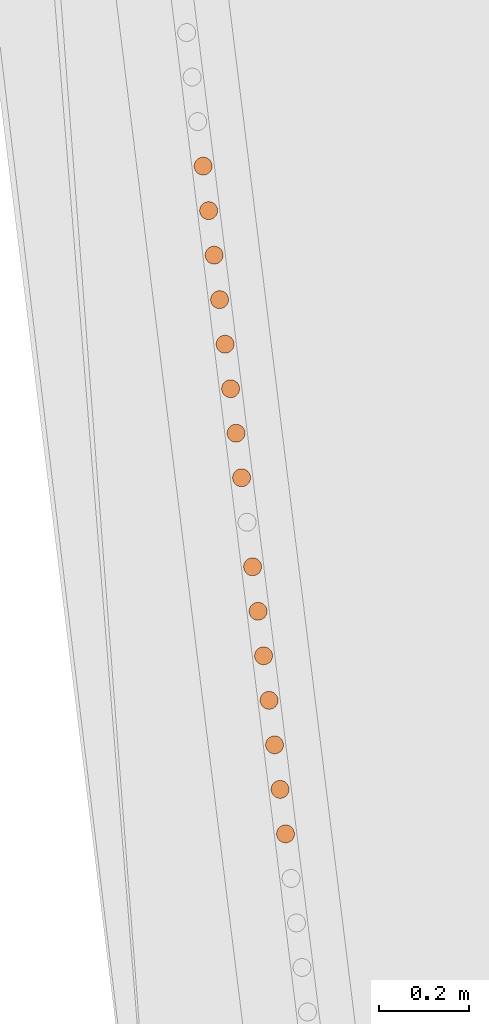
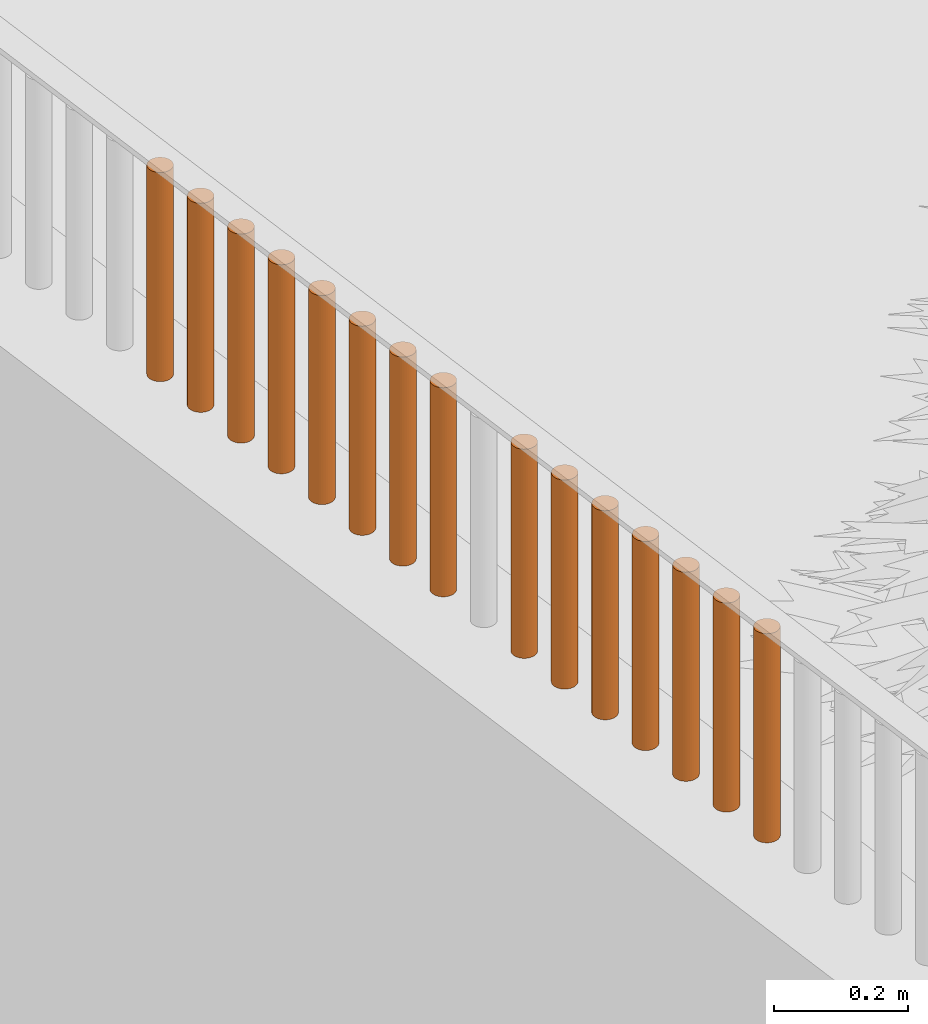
# One storey, part 57 of 1809: 15 proxies, 1 element without a shape of its own.
"""IFC2X3 building model written with IfcOpenShell, lengths in millimetres."""

from ifc_helpers import new_model, entity, si_unit, converted_unit, derived_unit, money_unit, direction, frame, origin_with_axes, place, context, subcontext, project, spatial, faceted_brep, source, transform, mapped, material, type_object, element, aggregate, save


model = new_model("IFC2X3")

# Units and contexts
model_context = context("Model", 3, precision=0.01, world=origin_with_axes(), true_north=direction((0.0, 1.0)))
body_context = subcontext(model_context, "Body", "Model", "MODEL_VIEW")
ifc_project = project(units=[si_unit("LENGTHUNIT", "METRE", prefix="MILLI"), si_unit("AREAUNIT", "SQUARE_METRE"), si_unit("VOLUMEUNIT", "CUBIC_METRE"), converted_unit("PLANEANGLEUNIT", "DEGREE", entity("IfcPlaneAngleMeasure", 0.0174532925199), si_unit("PLANEANGLEUNIT", "RADIAN"), dimensions=[0, 0, 0, 0, 0, 0, 0]), si_unit("SOLIDANGLEUNIT", "STERADIAN"), money_unit("EUR"), converted_unit("TIMEUNIT", "Year", entity("IfcTimeMeasure", 31556926.0), si_unit("TIMEUNIT", "SECOND"), dimensions=[0, 0, 1, 0, 0, 0, 0]), si_unit("MASSUNIT", "GRAM", prefix="KILO"), si_unit("THERMODYNAMICTEMPERATUREUNIT", "DEGREE_CELSIUS"), si_unit("LUMINOUSINTENSITYUNIT", "LUMEN"), si_unit("ENERGYUNIT", "JOULE", prefix="MEGA"), derived_unit("THERMALCONDUCTANCEUNIT", [(si_unit("POWERUNIT", "WATT"), 1), (si_unit("LENGTHUNIT", "METRE"), -1), (si_unit("THERMODYNAMICTEMPERATUREUNIT", "KELVIN"), -1)]), derived_unit("SPECIFICHEATCAPACITYUNIT", [(si_unit("ENERGYUNIT", "JOULE"), 1), (si_unit("MASSUNIT", "GRAM", prefix="KILO"), -1), (si_unit("THERMODYNAMICTEMPERATUREUNIT", "KELVIN"), -1)]), derived_unit("MASSDENSITYUNIT", [(si_unit("MASSUNIT", "GRAM", prefix="KILO"), 1), (si_unit("VOLUMEUNIT", "CUBIC_METRE"), -1)])], contexts=[model_context])

# Site, building, storey
site_placement = place(None, origin_with_axes())
site = spatial("IfcSite", under=ifc_project, at=site_placement, Name="Politse- ja Piirivalveameti ning Päästeameti ühishoone", CompositionType="ELEMENT")
building_placement = place(site_placement, origin_with_axes())
building = spatial("IfcBuilding", under=site, at=building_placement, Name="Politse- ja Piirivalveameti ning Päästeameti ühishoone", CompositionType="ELEMENT")
storey_placement = place(building_placement, origin_with_axes())
storey = spatial("IfcBuildingStorey", under=building, at=storey_placement, Name="Esimene korrus", CompositionType="ELEMENT", Elevation=0.0)

# Proxies
building_element_proxy_type_1 = type_object("IfcBuildingElementProxyType", Name="Railing Type", PredefinedType="NOTDEFINED")
proxy_1_placement = place(storey_placement, frame((-18956.5522504, -53688.4757966, 2100.0), z_axis=(0.0, 0.0, 1.0), x_axis=(1.0, 0.0, 0.0)))
proxy_1 = element("IfcBuildingElementProxy", 1, at=proxy_1_placement, inside=storey, type_object=building_element_proxy_type_1, Name="PIIRDEAED")
ifc_material = material(Name="ET-06_Teras - Konstruktsioon")
building_element_proxy_type_2 = type_object("IfcBuildingElementProxyType", Name="IfcBuildingElementProxy", PredefinedType="NOTDEFINED")
shared_shape_1 = source(origin_with_axes(), body_context, "Body", "Brep", [
    faceted_brep([(0.0, -20.0, 0.0), (3.47296355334, -19.6961550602, 0.0), (3.47296355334, -19.6961550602, 380.000012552), (0.0, -20.0, 380.000012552), (-3.47296355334, -19.6961550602, 0.0), (-6.84040286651, -18.7938524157, 0.0), (-10.0, -17.3205080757, 0.0), (-12.8557521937, -15.3208888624, 0.0), (-15.3208888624, -12.8557521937, 0.0), (-17.3205080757, -10.0, 0.0), (-18.7938524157, -6.84040286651, 0.0), (-19.6961550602, -3.47296355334, 0.0), (-20.0, 0.0, 0.0), (-19.6961550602, 3.47296355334, 0.0), (-18.7938524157, 6.84040286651, 0.0), (-17.3205080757, 10.0, 0.0), (-15.3208888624, 12.8557521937, 0.0), (-12.8557521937, 15.3208888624, 0.0), (-10.0, 17.3205080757, 0.0), (-6.84040286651, 18.7938524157, 0.0), (-3.47296355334, 19.6961550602, 0.0), (0.0, 20.0, 0.0), (3.47296355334, 19.6961550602, 0.0), (6.84040286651, 18.7938524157, 0.0), (10.0, 17.3205080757, 0.0), (12.8557521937, 15.3208888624, 0.0), (15.3208888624, 12.8557521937, 0.0), (17.3205080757, 10.0, 0.0), (18.7938524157, 6.84040286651, 0.0), (19.6961550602, 3.47296355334, 0.0), (20.0, 0.0, 0.0), (19.6961550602, -3.47296355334, 0.0), (18.7938524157, -6.84040286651, 0.0), (17.3205080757, -10.0, 0.0), (15.3208888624, -12.8557521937, 0.0), (12.8557521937, -15.3208888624, 0.0), (10.0, -17.3205080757, 0.0), (6.84040286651, -18.7938524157, 0.0), (6.84040286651, -18.7938524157, 380.000012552), (10.0, -17.3205080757, 380.000012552), (12.8557521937, -15.3208888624, 380.000012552), (15.3208888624, -12.8557521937, 380.000012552), (17.3205080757, -10.0, 380.000012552), (18.7938524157, -6.84040286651, 380.000012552), (19.6961550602, -3.47296355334, 380.000012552), (20.0, 0.0, 380.000012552), (19.6961550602, 3.47296355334, 380.000012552), (18.7938524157, 6.84040286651, 380.000012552), (17.3205080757, 10.0, 380.000012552), (15.3208888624, 12.8557521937, 380.000012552), (12.8557521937, 15.3208888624, 380.000012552), (10.0, 17.3205080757, 380.000012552), (6.84040286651, 18.7938524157, 380.000012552), (3.47296355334, 19.6961550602, 380.000012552), (0.0, 20.0, 380.000012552), (-3.47296355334, 19.6961550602, 380.000012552), (-6.84040286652, 18.7938524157, 380.000012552), (-10.0, 17.3205080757, 380.000012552), (-12.8557521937, 15.3208888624, 380.000012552), (-15.3208888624, 12.8557521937, 380.000012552), (-17.3205080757, 10.0, 380.000012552), (-18.7938524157, 6.84040286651, 380.000012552), (-19.6961550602, 3.47296355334, 380.000012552), (-20.0, 0.0, 380.000012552), (-19.6961550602, -3.47296355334, 380.000012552), (-18.7938524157, -6.84040286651, 380.000012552), (-17.3205080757, -10.0, 380.000012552), (-15.3208888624, -12.8557521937, 380.000012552), (-12.8557521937, -15.3208888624, 380.000012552), (-10.0, -17.3205080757, 380.000012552), (-6.84040286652, -18.7938524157, 380.000012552), (-3.47296355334, -19.6961550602, 380.000012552)], [[[0, 1, 2, 3]], [[0, 4, 5, 6, 7, 8, 9, 10, 11, 12, 13, 14, 15, 16, 17, 18, 19, 20, 21, 22, 23, 24, 25, 26, 27, 28, 29, 30, 31, 32, 33, 34, 35, 36, 37, 1]], [[1, 37, 38, 2]], [[3, 2, 38, 39, 40, 41, 42, 43, 44, 45, 46, 47, 48, 49, 50, 51, 52, 53, 54, 55, 56, 57, 58, 59, 60, 61, 62, 63, 64, 65, 66, 67, 68, 69, 70, 71]], [[4, 0, 3, 71]], [[5, 4, 71, 70]], [[6, 5, 70, 69]], [[7, 6, 69, 68]], [[8, 7, 68, 67]], [[9, 8, 67, 66]], [[10, 9, 66, 65]], [[11, 10, 65, 64]], [[12, 11, 64, 63]], [[13, 12, 63, 62]], [[14, 13, 62, 61]], [[15, 14, 61, 60]], [[16, 15, 60, 59]], [[17, 16, 59, 58]], [[18, 17, 58, 57]], [[19, 18, 57, 56]], [[20, 19, 56, 55]], [[21, 20, 55, 54]], [[22, 21, 54, 53]], [[23, 22, 53, 52]], [[24, 23, 52, 51]], [[25, 24, 51, 50]], [[26, 25, 50, 49]], [[27, 26, 49, 48]], [[28, 27, 48, 47]], [[29, 28, 47, 46]], [[30, 29, 46, 45]], [[31, 30, 45, 44]], [[32, 31, 44, 43]], [[33, 32, 43, 42]], [[34, 33, 42, 41]], [[35, 34, 41, 40]], [[36, 35, 40, 39]], [[37, 36, 39, 38]]]),
])
proxy_2_placement = place(proxy_1_placement, frame((-264.490711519, 1308.74248509, -1.25517001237e-05), z_axis=(0.0, 0.0, 1.0), x_axis=(1.0, 0.0, 0.0)))
proxy_2 = element("IfcBuildingElementProxy", 2, at=proxy_2_placement, type_object=building_element_proxy_type_2, material=ifc_material, Name="BALUSTER - 001", context=body_context, shape_type="MappedRepresentation", body=[
    mapped(shared_shape_1, transform((0.0, 0.0, 0.0), x_axis=(0.992468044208, 0.122503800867, 0.0), y_axis=(-0.122503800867, 0.992468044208, 0.0), z_axis=(0.0, 0.0, 1.0))),
])
shared_shape_2 = source(origin_with_axes(), body_context, "Body", "Brep", [
    faceted_brep([(0.0, -20.0, 0.0), (3.47296355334, -19.6961550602, 0.0), (3.47296355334, -19.6961550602, 380.000012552), (0.0, -20.0, 380.000012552), (-3.47296355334, -19.6961550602, 0.0), (-6.84040286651, -18.7938524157, 0.0), (-10.0, -17.3205080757, 0.0), (-12.8557521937, -15.3208888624, 0.0), (-15.3208888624, -12.8557521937, 0.0), (-17.3205080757, -10.0, 0.0), (-18.7938524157, -6.84040286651, 0.0), (-19.6961550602, -3.47296355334, 0.0), (-20.0, 0.0, 0.0), (-19.6961550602, 3.47296355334, 0.0), (-18.7938524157, 6.84040286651, 0.0), (-17.3205080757, 10.0, 0.0), (-15.3208888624, 12.8557521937, 0.0), (-12.8557521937, 15.3208888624, 0.0), (-10.0, 17.3205080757, 0.0), (-6.84040286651, 18.7938524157, 0.0), (-3.47296355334, 19.6961550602, 0.0), (0.0, 20.0, 0.0), (3.47296355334, 19.6961550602, 0.0), (6.84040286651, 18.7938524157, 0.0), (10.0, 17.3205080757, 0.0), (12.8557521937, 15.3208888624, 0.0), (15.3208888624, 12.8557521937, 0.0), (17.3205080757, 10.0, 0.0), (18.7938524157, 6.84040286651, 0.0), (19.6961550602, 3.47296355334, 0.0), (20.0, 0.0, 0.0), (19.6961550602, -3.47296355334, 0.0), (18.7938524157, -6.84040286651, 0.0), (17.3205080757, -10.0, 0.0), (15.3208888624, -12.8557521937, 0.0), (12.8557521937, -15.3208888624, 0.0), (10.0, -17.3205080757, 0.0), (6.84040286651, -18.7938524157, 0.0), (6.84040286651, -18.7938524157, 380.000012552), (10.0, -17.3205080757, 380.000012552), (12.8557521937, -15.3208888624, 380.000012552), (15.3208888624, -12.8557521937, 380.000012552), (17.3205080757, -10.0, 380.000012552), (18.7938524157, -6.84040286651, 380.000012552), (19.6961550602, -3.47296355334, 380.000012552), (20.0, 0.0, 380.000012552), (19.6961550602, 3.47296355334, 380.000012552), (18.7938524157, 6.84040286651, 380.000012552), (17.3205080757, 10.0, 380.000012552), (15.3208888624, 12.8557521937, 380.000012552), (12.8557521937, 15.3208888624, 380.000012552), (10.0, 17.3205080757, 380.000012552), (6.84040286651, 18.7938524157, 380.000012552), (3.47296355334, 19.6961550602, 380.000012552), (0.0, 20.0, 380.000012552), (-3.47296355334, 19.6961550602, 380.000012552), (-6.84040286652, 18.7938524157, 380.000012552), (-10.0, 17.3205080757, 380.000012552), (-12.8557521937, 15.3208888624, 380.000012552), (-15.3208888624, 12.8557521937, 380.000012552), (-17.3205080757, 10.0, 380.000012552), (-18.7938524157, 6.84040286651, 380.000012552), (-19.6961550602, 3.47296355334, 380.000012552), (-20.0, 0.0, 380.000012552), (-19.6961550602, -3.47296355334, 380.000012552), (-18.7938524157, -6.84040286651, 380.000012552), (-17.3205080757, -10.0, 380.000012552), (-15.3208888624, -12.8557521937, 380.000012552), (-12.8557521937, -15.3208888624, 380.000012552), (-10.0, -17.3205080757, 380.000012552), (-6.84040286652, -18.7938524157, 380.000012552), (-3.47296355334, -19.6961550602, 380.000012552)], [[[0, 1, 2, 3]], [[0, 4, 5, 6, 7, 8, 9, 10, 11, 12, 13, 14, 15, 16, 17, 18, 19, 20, 21, 22, 23, 24, 25, 26, 27, 28, 29, 30, 31, 32, 33, 34, 35, 36, 37, 1]], [[1, 37, 38, 2]], [[3, 2, 38, 39, 40, 41, 42, 43, 44, 45, 46, 47, 48, 49, 50, 51, 52, 53, 54, 55, 56, 57, 58, 59, 60, 61, 62, 63, 64, 65, 66, 67, 68, 69, 70, 71]], [[4, 0, 3, 71]], [[5, 4, 71, 70]], [[6, 5, 70, 69]], [[7, 6, 69, 68]], [[8, 7, 68, 67]], [[9, 8, 67, 66]], [[10, 9, 66, 65]], [[11, 10, 65, 64]], [[12, 11, 64, 63]], [[13, 12, 63, 62]], [[14, 13, 62, 61]], [[15, 14, 61, 60]], [[16, 15, 60, 59]], [[17, 16, 59, 58]], [[18, 17, 58, 57]], [[19, 18, 57, 56]], [[20, 19, 56, 55]], [[21, 20, 55, 54]], [[22, 21, 54, 53]], [[23, 22, 53, 52]], [[24, 23, 52, 51]], [[25, 24, 51, 50]], [[26, 25, 50, 49]], [[27, 26, 49, 48]], [[28, 27, 48, 47]], [[29, 28, 47, 46]], [[30, 29, 46, 45]], [[31, 30, 45, 44]], [[32, 31, 44, 43]], [[33, 32, 43, 42]], [[34, 33, 42, 41]], [[35, 34, 41, 40]], [[36, 35, 40, 39]], [[37, 36, 39, 38]]]),
])
proxy_3_placement = place(proxy_1_placement, frame((-239.995301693, 1110.29222224, -1.25517001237e-05), z_axis=(0.0, 0.0, 1.0), x_axis=(1.0, 0.0, 0.0)))
proxy_3 = element("IfcBuildingElementProxy", 3, at=proxy_3_placement, type_object=building_element_proxy_type_2, material=ifc_material, Name="BALUSTER - 001", context=body_context, shape_type="MappedRepresentation", body=[
    mapped(shared_shape_2, transform((0.0, 0.0, 0.0), x_axis=(0.992468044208, 0.122503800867, 0.0), y_axis=(-0.122503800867, 0.992468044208, 0.0), z_axis=(0.0, 0.0, 1.0))),
])
proxy_4_placement = place(proxy_1_placement, frame((-252.243006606, 1209.51735367, -1.25517001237e-05), z_axis=(0.0, 0.0, 1.0), x_axis=(1.0, 0.0, 0.0)))
proxy_4 = element("IfcBuildingElementProxy", 4, at=proxy_4_placement, type_object=building_element_proxy_type_2, material=ifc_material, Name="BALUSTER - 001", context=body_context, shape_type="MappedRepresentation", body=[
    mapped(shared_shape_2, transform((0.0, 0.0, 0.0), x_axis=(0.992468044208, 0.122503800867, 0.0), y_axis=(-0.122503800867, 0.992468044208, 0.0), z_axis=(0.0, 0.0, 1.0))),
])
proxy_5_placement = place(proxy_1_placement, frame((-276.738416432, 1407.96761652, -1.25517001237e-05), z_axis=(0.0, 0.0, 1.0), x_axis=(1.0, 0.0, 0.0)))
proxy_5 = element("IfcBuildingElementProxy", 5, at=proxy_5_placement, type_object=building_element_proxy_type_2, material=ifc_material, Name="BALUSTER - 001", context=body_context, shape_type="MappedRepresentation", body=[
    mapped(shared_shape_2, transform((0.0, 0.0, 0.0), x_axis=(0.992468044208, 0.122503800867, 0.0), y_axis=(-0.122503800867, 0.992468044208, 0.0), z_axis=(0.0, 0.0, 1.0))),
])
proxy_6_placement = place(proxy_1_placement, frame((-301.233826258, 1606.41787937, -1.25517001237e-05), z_axis=(0.0, 0.0, 1.0), x_axis=(1.0, 0.0, 0.0)))
proxy_6 = element("IfcBuildingElementProxy", 6, at=proxy_6_placement, type_object=building_element_proxy_type_2, material=ifc_material, Name="BALUSTER - 001", context=body_context, shape_type="MappedRepresentation", body=[
    mapped(shared_shape_2, transform((0.0, 0.0, 0.0), x_axis=(0.992468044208, 0.122503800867, 0.0), y_axis=(-0.122503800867, 0.992468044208, 0.0), z_axis=(0.0, 0.0, 1.0))),
])
proxy_7_placement = place(proxy_1_placement, frame((-313.481531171, 1705.64301079, -1.25517001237e-05), z_axis=(0.0, 0.0, 1.0), x_axis=(1.0, 0.0, 0.0)))
proxy_7 = element("IfcBuildingElementProxy", 7, at=proxy_7_placement, type_object=building_element_proxy_type_2, material=ifc_material, Name="BALUSTER - 001", context=body_context, shape_type="MappedRepresentation", body=[
    mapped(shared_shape_2, transform((0.0, 0.0, 0.0), x_axis=(0.992468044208, 0.122503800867, 0.0), y_axis=(-0.122503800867, 0.992468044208, 0.0), z_axis=(0.0, 0.0, 1.0))),
])
proxy_8_placement = place(proxy_1_placement, frame((-337.976940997, 1904.09327365, -1.25517001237e-05), z_axis=(0.0, 0.0, 1.0), x_axis=(1.0, 0.0, 0.0)))
proxy_8 = element("IfcBuildingElementProxy", 8, at=proxy_8_placement, type_object=building_element_proxy_type_2, material=ifc_material, Name="BALUSTER - 001", context=body_context, shape_type="MappedRepresentation", body=[
    mapped(shared_shape_2, transform((0.0, 0.0, 0.0), x_axis=(0.992468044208, 0.122503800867, 0.0), y_axis=(-0.122503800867, 0.992468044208, 0.0), z_axis=(0.0, 0.0, 1.0))),
])
proxy_9_placement = place(proxy_1_placement, frame((-362.472350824, 2102.5435365, -1.25517001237e-05), z_axis=(0.0, 0.0, 1.0), x_axis=(1.0, 0.0, 0.0)))
proxy_9 = element("IfcBuildingElementProxy", 9, at=proxy_9_placement, type_object=building_element_proxy_type_2, material=ifc_material, Name="BALUSTER - 001", context=body_context, shape_type="MappedRepresentation", body=[
    mapped(shared_shape_2, transform((0.0, 0.0, 0.0), x_axis=(0.992468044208, 0.122503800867, 0.0), y_axis=(-0.122503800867, 0.992468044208, 0.0), z_axis=(0.0, 0.0, 1.0))),
])
proxy_10_placement = place(proxy_1_placement, frame((-399.215465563, 2400.21893077, -1.25517001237e-05), z_axis=(0.0, 0.0, 1.0), x_axis=(1.0, 0.0, 0.0)))
proxy_10 = element("IfcBuildingElementProxy", 10, at=proxy_10_placement, type_object=building_element_proxy_type_2, material=ifc_material, Name="BALUSTER - 001", context=body_context, shape_type="MappedRepresentation", body=[
    mapped(shared_shape_2, transform((0.0, 0.0, 0.0), x_axis=(0.992468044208, 0.122503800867, 0.0), y_axis=(-0.122503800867, 0.992468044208, 0.0), z_axis=(0.0, 0.0, 1.0))),
])
proxy_11_placement = place(proxy_1_placement, frame((-423.710875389, 2598.66919362, -1.25517001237e-05), z_axis=(0.0, 0.0, 1.0), x_axis=(1.0, 0.0, 0.0)))
proxy_11 = element("IfcBuildingElementProxy", 11, at=proxy_11_placement, type_object=building_element_proxy_type_2, material=ifc_material, Name="BALUSTER - 001", context=body_context, shape_type="MappedRepresentation", body=[
    mapped(shared_shape_2, transform((0.0, 0.0, 0.0), x_axis=(0.992468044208, 0.122503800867, 0.0), y_axis=(-0.122503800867, 0.992468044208, 0.0), z_axis=(0.0, 0.0, 1.0))),
])
shared_shape_3 = source(origin_with_axes(), body_context, "Body", "Brep", [
    faceted_brep([(0.0, -20.0, 0.0), (3.47296355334, -19.6961550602, 0.0), (3.47296355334, -19.6961550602, 380.000012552), (0.0, -20.0, 380.000012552), (-3.47296355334, -19.6961550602, 0.0), (-6.84040286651, -18.7938524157, 0.0), (-10.0, -17.3205080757, 0.0), (-12.8557521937, -15.3208888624, 0.0), (-15.3208888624, -12.8557521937, 0.0), (-17.3205080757, -10.0, 0.0), (-18.7938524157, -6.84040286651, 0.0), (-19.6961550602, -3.47296355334, 0.0), (-20.0, 0.0, 0.0), (-19.6961550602, 3.47296355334, 0.0), (-18.7938524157, 6.84040286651, 0.0), (-17.3205080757, 10.0, 0.0), (-15.3208888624, 12.8557521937, 0.0), (-12.8557521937, 15.3208888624, 0.0), (-10.0, 17.3205080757, 0.0), (-6.84040286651, 18.7938524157, 0.0), (-3.47296355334, 19.6961550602, 0.0), (0.0, 20.0, 0.0), (3.47296355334, 19.6961550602, 0.0), (6.84040286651, 18.7938524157, 0.0), (10.0, 17.3205080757, 0.0), (12.8557521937, 15.3208888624, 0.0), (15.3208888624, 12.8557521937, 0.0), (17.3205080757, 10.0, 0.0), (18.7938524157, 6.84040286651, 0.0), (19.6961550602, 3.47296355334, 0.0), (20.0, 0.0, 0.0), (19.6961550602, -3.47296355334, 0.0), (18.7938524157, -6.84040286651, 0.0), (17.3205080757, -10.0, 0.0), (15.3208888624, -12.8557521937, 0.0), (12.8557521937, -15.3208888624, 0.0), (10.0, -17.3205080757, 0.0), (6.84040286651, -18.7938524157, 0.0), (6.84040286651, -18.7938524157, 380.000012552), (10.0, -17.3205080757, 380.000012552), (12.8557521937, -15.3208888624, 380.000012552), (15.3208888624, -12.8557521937, 380.000012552), (17.3205080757, -9.99999999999, 380.000012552), (18.7938524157, -6.84040286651, 380.000012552), (19.6961550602, -3.47296355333, 380.000012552), (20.0, 0.0, 380.000012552), (19.6961550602, 3.47296355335, 380.000012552), (18.7938524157, 6.84040286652, 380.000012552), (17.3205080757, 10.0, 380.000012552), (15.3208888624, 12.8557521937, 380.000012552), (12.8557521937, 15.3208888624, 380.000012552), (10.0, 17.3205080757, 380.000012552), (6.84040286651, 18.7938524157, 380.000012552), (3.47296355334, 19.6961550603, 380.000012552), (0.0, 20.0, 380.000012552), (-3.47296355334, 19.6961550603, 380.000012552), (-6.84040286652, 18.7938524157, 380.000012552), (-10.0, 17.3205080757, 380.000012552), (-12.8557521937, 15.3208888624, 380.000012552), (-15.3208888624, 12.8557521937, 380.000012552), (-17.3205080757, 10.0, 380.000012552), (-18.7938524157, 6.84040286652, 380.000012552), (-19.6961550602, 3.47296355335, 380.000012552), (-20.0, 0.0, 380.000012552), (-19.6961550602, -3.47296355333, 380.000012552), (-18.7938524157, -6.84040286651, 380.000012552), (-17.3205080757, -9.99999999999, 380.000012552), (-15.3208888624, -12.8557521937, 380.000012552), (-12.8557521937, -15.3208888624, 380.000012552), (-10.0, -17.3205080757, 380.000012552), (-6.84040286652, -18.7938524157, 380.000012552), (-3.47296355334, -19.6961550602, 380.000012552)], [[[0, 1, 2, 3]], [[0, 4, 5, 6, 7, 8, 9, 10, 11, 12, 13, 14, 15, 16, 17, 18, 19, 20, 21, 22, 23, 24, 25, 26, 27, 28, 29, 30, 31, 32, 33, 34, 35, 36, 37, 1]], [[1, 37, 38, 2]], [[3, 2, 38, 39, 40, 41, 42, 43, 44, 45, 46, 47, 48, 49, 50, 51, 52, 53, 54, 55, 56, 57, 58, 59, 60, 61, 62, 63, 64, 65, 66, 67, 68, 69, 70, 71]], [[4, 0, 3, 71]], [[5, 4, 71, 70]], [[6, 5, 70, 69]], [[7, 6, 69, 68]], [[8, 7, 68, 67]], [[9, 8, 67, 66]], [[10, 9, 66, 65]], [[11, 10, 65, 64]], [[12, 11, 64, 63]], [[13, 12, 63, 62]], [[14, 13, 62, 61]], [[15, 14, 61, 60]], [[16, 15, 60, 59]], [[17, 16, 59, 58]], [[18, 17, 58, 57]], [[19, 18, 57, 56]], [[20, 19, 56, 55]], [[21, 20, 55, 54]], [[22, 21, 54, 53]], [[23, 22, 53, 52]], [[24, 23, 52, 51]], [[25, 24, 51, 50]], [[26, 25, 50, 49]], [[27, 26, 49, 48]], [[28, 27, 48, 47]], [[29, 28, 47, 46]], [[30, 29, 46, 45]], [[31, 30, 45, 44]], [[32, 31, 44, 43]], [[33, 32, 43, 42]], [[34, 33, 42, 41]], [[35, 34, 41, 40]], [[36, 35, 40, 39]], [[37, 36, 39, 38]]]),
])
proxy_12_placement = place(proxy_1_placement, frame((-386.96776065, 2300.99379935, -1.25517001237e-05), z_axis=(0.0, 0.0, 1.0), x_axis=(1.0, 0.0, 0.0)))
proxy_12 = element("IfcBuildingElementProxy", 12, at=proxy_12_placement, type_object=building_element_proxy_type_2, material=ifc_material, Name="BALUSTER - 001", context=body_context, shape_type="MappedRepresentation", body=[
    mapped(shared_shape_3, transform((0.0, 0.0, 0.0), x_axis=(0.992468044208, 0.122503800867, 0.0), y_axis=(-0.122503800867, 0.992468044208, 0.0), z_axis=(0.0, 0.0, 1.0))),
])
shared_shape_4 = source(origin_with_axes(), body_context, "Body", "Brep", [
    faceted_brep([(0.0, -20.0, 0.0), (3.47296355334, -19.6961550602, 0.0), (3.47296355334, -19.6961550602, 380.000012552), (0.0, -20.0, 380.000012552), (-3.47296355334, -19.6961550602, 0.0), (-6.84040286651, -18.7938524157, 0.0), (-10.0, -17.3205080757, 0.0), (-12.8557521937, -15.3208888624, 0.0), (-15.3208888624, -12.8557521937, 0.0), (-17.3205080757, -10.0, 0.0), (-18.7938524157, -6.84040286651, 0.0), (-19.6961550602, -3.47296355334, 0.0), (-20.0, 0.0, 0.0), (-19.6961550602, 3.47296355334, 0.0), (-18.7938524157, 6.84040286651, 0.0), (-17.3205080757, 10.0, 0.0), (-15.3208888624, 12.8557521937, 0.0), (-12.8557521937, 15.3208888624, 0.0), (-10.0, 17.3205080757, 0.0), (-6.84040286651, 18.7938524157, 0.0), (-3.47296355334, 19.6961550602, 0.0), (0.0, 20.0, 0.0), (3.47296355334, 19.6961550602, 0.0), (6.84040286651, 18.7938524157, 0.0), (10.0, 17.3205080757, 0.0), (12.8557521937, 15.3208888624, 0.0), (15.3208888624, 12.8557521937, 0.0), (17.3205080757, 10.0, 0.0), (18.7938524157, 6.84040286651, 0.0), (19.6961550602, 3.47296355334, 0.0), (20.0, 0.0, 0.0), (19.6961550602, -3.47296355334, 0.0), (18.7938524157, -6.84040286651, 0.0), (17.3205080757, -10.0, 0.0), (15.3208888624, -12.8557521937, 0.0), (12.8557521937, -15.3208888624, 0.0), (10.0, -17.3205080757, 0.0), (6.84040286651, -18.7938524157, 0.0), (6.84040286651, -18.7938524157, 380.000012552), (10.0, -17.3205080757, 380.000012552), (12.8557521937, -15.3208888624, 380.000012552), (15.3208888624, -12.8557521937, 380.000012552), (17.3205080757, -10.0, 380.000012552), (18.7938524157, -6.84040286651, 380.000012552), (19.6961550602, -3.47296355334, 380.000012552), (20.0, 0.0, 380.000012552), (19.6961550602, 3.47296355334, 380.000012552), (18.7938524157, 6.84040286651, 380.000012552), (17.3205080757, 10.0, 380.000012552), (15.3208888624, 12.8557521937, 380.000012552), (12.8557521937, 15.3208888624, 380.000012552), (10.0, 17.3205080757, 380.000012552), (6.84040286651, 18.7938524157, 380.000012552), (3.47296355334, 19.6961550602, 380.000012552), (0.0, 20.0, 380.000012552), (-3.47296355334, 19.6961550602, 380.000012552), (-6.84040286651, 18.7938524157, 380.000012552), (-10.0, 17.3205080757, 380.000012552), (-12.8557521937, 15.3208888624, 380.000012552), (-15.3208888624, 12.8557521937, 380.000012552), (-17.3205080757, 10.0, 380.000012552), (-18.7938524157, 6.84040286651, 380.000012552), (-19.6961550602, 3.47296355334, 380.000012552), (-20.0, 0.0, 380.000012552), (-19.6961550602, -3.47296355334, 380.000012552), (-18.7938524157, -6.84040286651, 380.000012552), (-17.3205080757, -10.0, 380.000012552), (-15.3208888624, -12.8557521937, 380.000012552), (-12.8557521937, -15.3208888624, 380.000012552), (-10.0, -17.3205080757, 380.000012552), (-6.84040286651, -18.7938524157, 380.000012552), (-3.47296355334, -19.6961550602, 380.000012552)], [[[0, 1, 2, 3]], [[0, 4, 5, 6, 7, 8, 9, 10, 11, 12, 13, 14, 15, 16, 17, 18, 19, 20, 21, 22, 23, 24, 25, 26, 27, 28, 29, 30, 31, 32, 33, 34, 35, 36, 37, 1]], [[1, 37, 38, 2]], [[3, 2, 38, 39, 40, 41, 42, 43, 44, 45, 46, 47, 48, 49, 50, 51, 52, 53, 54, 55, 56, 57, 58, 59, 60, 61, 62, 63, 64, 65, 66, 67, 68, 69, 70, 71]], [[4, 0, 3, 71]], [[5, 4, 71, 70]], [[6, 5, 70, 69]], [[7, 6, 69, 68]], [[8, 7, 68, 67]], [[9, 8, 67, 66]], [[10, 9, 66, 65]], [[11, 10, 65, 64]], [[12, 11, 64, 63]], [[13, 12, 63, 62]], [[14, 13, 62, 61]], [[15, 14, 61, 60]], [[16, 15, 60, 59]], [[17, 16, 59, 58]], [[18, 17, 58, 57]], [[19, 18, 57, 56]], [[20, 19, 56, 55]], [[21, 20, 55, 54]], [[22, 21, 54, 53]], [[23, 22, 53, 52]], [[24, 23, 52, 51]], [[25, 24, 51, 50]], [[26, 25, 50, 49]], [[27, 26, 49, 48]], [[28, 27, 48, 47]], [[29, 28, 47, 46]], [[30, 29, 46, 45]], [[31, 30, 45, 44]], [[32, 31, 44, 43]], [[33, 32, 43, 42]], [[34, 33, 42, 41]], [[35, 34, 41, 40]], [[36, 35, 40, 39]], [[37, 36, 39, 38]]]),
])
proxy_13_placement = place(proxy_1_placement, frame((-288.986121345, 1507.19274794, -1.25517001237e-05), z_axis=(0.0, 0.0, 1.0), x_axis=(1.0, 0.0, 0.0)))
proxy_13 = element("IfcBuildingElementProxy", 13, at=proxy_13_placement, type_object=building_element_proxy_type_2, material=ifc_material, Name="BALUSTER - 001", context=body_context, shape_type="MappedRepresentation", body=[
    mapped(shared_shape_4, transform((0.0, 0.0, 0.0), x_axis=(0.992468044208, 0.122503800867, 0.0), y_axis=(-0.122503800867, 0.992468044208, 0.0), z_axis=(0.0, 0.0, 1.0))),
])
proxy_14_placement = place(proxy_1_placement, frame((-350.224645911, 2003.31840507, -1.25517001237e-05), z_axis=(0.0, 0.0, 1.0), x_axis=(1.0, 0.0, 0.0)))
proxy_14 = element("IfcBuildingElementProxy", 14, at=proxy_14_placement, type_object=building_element_proxy_type_2, material=ifc_material, Name="BALUSTER - 001", context=body_context, shape_type="MappedRepresentation", body=[
    mapped(shared_shape_4, transform((0.0, 0.0, 0.0), x_axis=(0.992468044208, 0.122503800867, 0.0), y_axis=(-0.122503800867, 0.992468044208, 0.0), z_axis=(0.0, 0.0, 1.0))),
])
proxy_15_placement = place(proxy_1_placement, frame((-411.463170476, 2499.4440622, -1.25517001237e-05), z_axis=(0.0, 0.0, 1.0), x_axis=(1.0, 0.0, 0.0)))
proxy_15 = element("IfcBuildingElementProxy", 15, at=proxy_15_placement, type_object=building_element_proxy_type_2, material=ifc_material, Name="BALUSTER - 001", context=body_context, shape_type="MappedRepresentation", body=[
    mapped(shared_shape_4, transform((0.0, 0.0, 0.0), x_axis=(0.992468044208, 0.122503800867, 0.0), y_axis=(-0.122503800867, 0.992468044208, 0.0), z_axis=(0.0, 0.0, 1.0))),
])
shared_shape_5 = source(origin_with_axes(), body_context, "Body", "Brep", [
    faceted_brep([(0.0, -20.0, 0.0), (3.47296355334, -19.6961550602, 0.0), (3.47296355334, -19.6961550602, 380.000012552), (0.0, -20.0, 380.000012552), (-3.47296355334, -19.6961550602, 0.0), (-6.84040286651, -18.7938524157, 0.0), (-10.0, -17.3205080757, 0.0), (-12.8557521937, -15.3208888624, 0.0), (-15.3208888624, -12.8557521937, 0.0), (-17.3205080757, -10.0, 0.0), (-18.7938524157, -6.84040286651, 0.0), (-19.6961550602, -3.47296355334, 0.0), (-20.0, 0.0, 0.0), (-19.6961550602, 3.47296355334, 0.0), (-18.7938524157, 6.84040286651, 0.0), (-17.3205080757, 10.0, 0.0), (-15.3208888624, 12.8557521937, 0.0), (-12.8557521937, 15.3208888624, 0.0), (-10.0, 17.3205080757, 0.0), (-6.84040286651, 18.7938524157, 0.0), (-3.47296355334, 19.6961550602, 0.0), (0.0, 20.0, 0.0), (3.47296355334, 19.6961550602, 0.0), (6.84040286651, 18.7938524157, 0.0), (10.0, 17.3205080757, 0.0), (12.8557521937, 15.3208888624, 0.0), (15.3208888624, 12.8557521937, 0.0), (17.3205080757, 10.0, 0.0), (18.7938524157, 6.84040286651, 0.0), (19.6961550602, 3.47296355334, 0.0), (20.0, 0.0, 0.0), (19.6961550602, -3.47296355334, 0.0), (18.7938524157, -6.84040286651, 0.0), (17.3205080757, -10.0, 0.0), (15.3208888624, -12.8557521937, 0.0), (12.8557521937, -15.3208888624, 0.0), (10.0, -17.3205080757, 0.0), (6.84040286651, -18.7938524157, 0.0), (6.84040286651, -18.7938524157, 380.000012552), (10.0, -17.3205080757, 380.000012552), (12.8557521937, -15.3208888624, 380.000012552), (15.3208888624, -12.8557521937, 380.000012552), (17.3205080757, -10.0, 380.000012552), (18.7938524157, -6.84040286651, 380.000012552), (19.6961550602, -3.47296355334, 380.000012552), (20.0, 0.0, 380.000012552), (19.6961550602, 3.47296355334, 380.000012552), (18.7938524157, 6.84040286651, 380.000012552), (17.3205080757, 10.0, 380.000012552), (15.3208888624, 12.8557521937, 380.000012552), (12.8557521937, 15.3208888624, 380.000012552), (10.0, 17.3205080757, 380.000012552), (6.84040286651, 18.7938524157, 380.000012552), (3.47296355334, 19.6961550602, 380.000012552), (0.0, 20.0, 380.000012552), (-3.47296355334, 19.6961550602, 380.000012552), (-6.84040286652, 18.7938524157, 380.000012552), (-10.0, 17.3205080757, 380.000012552), (-12.8557521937, 15.3208888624, 380.000012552), (-15.3208888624, 12.8557521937, 380.000012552), (-17.3205080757, 10.0, 380.000012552), (-18.7938524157, 6.84040286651, 380.000012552), (-19.6961550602, 3.47296355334, 380.000012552), (-20.0, 0.0, 380.000012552), (-19.6961550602, -3.47296355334, 380.000012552), (-18.7938524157, -6.84040286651, 380.000012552), (-17.3205080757, -10.0, 380.000012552), (-15.3208888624, -12.8557521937, 380.000012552), (-12.8557521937, -15.3208888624, 380.000012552), (-10.0, -17.3205080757, 380.000012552), (-6.84040286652, -18.7938524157, 380.000012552), (-3.47296355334, -19.6961550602, 380.000012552)], [[[0, 1, 2, 3]], [[0, 4, 5, 6, 7, 8, 9, 10, 11, 12, 13, 14, 15, 16, 17, 18, 19, 20, 21, 22, 23, 24, 25, 26, 27, 28, 29, 30, 31, 32, 33, 34, 35, 36, 37, 1]], [[1, 37, 38, 2]], [[3, 2, 38, 39, 40, 41, 42, 43, 44, 45, 46, 47, 48, 49, 50, 51, 52, 53, 54, 55, 56, 57, 58, 59, 60, 61, 62, 63, 64, 65, 66, 67, 68, 69, 70, 71]], [[4, 0, 3, 71]], [[5, 4, 71, 70]], [[6, 5, 70, 69]], [[7, 6, 69, 68]], [[8, 7, 68, 67]], [[9, 8, 67, 66]], [[10, 9, 66, 65]], [[11, 10, 65, 64]], [[12, 11, 64, 63]], [[13, 12, 63, 62]], [[14, 13, 62, 61]], [[15, 14, 61, 60]], [[16, 15, 60, 59]], [[17, 16, 59, 58]], [[18, 17, 58, 57]], [[19, 18, 57, 56]], [[20, 19, 56, 55]], [[21, 20, 55, 54]], [[22, 21, 54, 53]], [[23, 22, 53, 52]], [[24, 23, 52, 51]], [[25, 24, 51, 50]], [[26, 25, 50, 49]], [[27, 26, 49, 48]], [[28, 27, 48, 47]], [[29, 28, 47, 46]], [[30, 29, 46, 45]], [[31, 30, 45, 44]], [[32, 31, 44, 43]], [[33, 32, 43, 42]], [[34, 33, 42, 41]], [[35, 34, 41, 40]], [[36, 35, 40, 39]], [[37, 36, 39, 38]]]),
])
proxy_16_placement = place(proxy_1_placement, frame((-374.720055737, 2201.76866792, -1.25517001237e-05), z_axis=(0.0, 0.0, 1.0), x_axis=(1.0, 0.0, 0.0)))
proxy_16 = element("IfcBuildingElementProxy", 16, at=proxy_16_placement, type_object=building_element_proxy_type_2, material=ifc_material, Name="BALUSTER - 001", context=body_context, shape_type="MappedRepresentation", body=[
    mapped(shared_shape_5, transform((0.0, 0.0, 0.0), x_axis=(0.992468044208, 0.122503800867, 0.0), y_axis=(-0.122503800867, 0.992468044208, 0.0), z_axis=(0.0, 0.0, 1.0))),
])
aggregate(proxy_1, [proxy_3, proxy_4, proxy_2, proxy_5, proxy_13, proxy_6, proxy_7, proxy_8, proxy_14, proxy_9, proxy_16, proxy_12, proxy_10, proxy_15, proxy_11])

save(model, "model.ifc")
